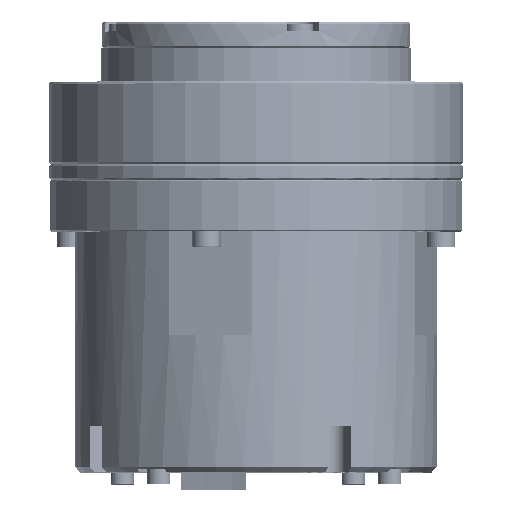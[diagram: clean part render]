
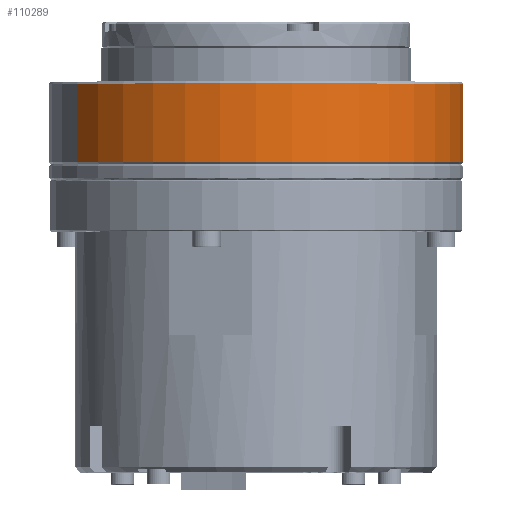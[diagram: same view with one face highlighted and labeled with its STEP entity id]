
A CAD part, top view. The second image highlights one B-rep face of the part: STEP entity #110289.
In plain terms, the highlighted cylindrical face has radius 40 mm (diameter 80 mm), a partial arc.
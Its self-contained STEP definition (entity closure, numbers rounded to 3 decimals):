
#1460 = ORIENTED_EDGE ( 'NONE', *, *, #81555, .T. ) ;
#2565 = VERTEX_POINT ( 'NONE', #100279 ) ;
#2908 = AXIS2_PLACEMENT_3D ( 'NONE', #51894, #23194, #13609 ) ;
#11632 = FACE_OUTER_BOUND ( 'NONE', #32510, .T. ) ;
#13609 = DIRECTION ( 'NONE',  ( -0.866, 0., 0.5 ) ) ;
#14722 = CARTESIAN_POINT ( 'NONE',  ( -34.641, 47.5, 20. ) ) ;
#19239 = CIRCLE ( 'NONE', #2908, 40. ) ;
#23194 = DIRECTION ( 'NONE',  ( 0., -1., 0. ) ) ;
#25133 = CARTESIAN_POINT ( 'NONE',  ( -34.641, 7.747, 20. ) ) ;
#30122 = CYLINDRICAL_SURFACE ( 'NONE', #72580, 40. ) ;
#32510 = EDGE_LOOP ( 'NONE', ( #99834, #1460, #90841, #106470, #43368 ) ) ;
#33204 = EDGE_CURVE ( 'NONE', #53707, #2565, #43039, .T. ) ;
#33594 = LINE ( 'NONE', #47428, #108339 ) ;
#36456 = VERTEX_POINT ( 'NONE', #79525 ) ;
#39184 = EDGE_CURVE ( 'NONE', #2565, #36456, #55442, .T. ) ;
#40988 = DIRECTION ( 'NONE',  ( -0.866, 0., 0.5 ) ) ;
#43039 = LINE ( 'NONE', #25133, #48808 ) ;
#43368 = ORIENTED_EDGE ( 'NONE', *, *, #66620, .T. ) ;
#47428 = CARTESIAN_POINT ( 'NONE',  ( 34.641, 7.747, -20. ) ) ;
#48808 = VECTOR ( 'NONE', #102955, 1000. ) ;
#51894 = CARTESIAN_POINT ( 'NONE',  ( 0., 47.5, 0. ) ) ;
#53707 = VERTEX_POINT ( 'NONE', #14722 ) ;
#55442 = CIRCLE ( 'NONE', #77868, 40. ) ;
#55465 = DIRECTION ( 'NONE',  ( -0.866, 0., 0.5 ) ) ;
#58782 = DIRECTION ( 'NONE',  ( -0.866, 0., 0.5 ) ) ;
#60710 = CARTESIAN_POINT ( 'NONE',  ( 0., 7.747, 0. ) ) ;
#66620 = EDGE_CURVE ( 'NONE', #36456, #113212, #109313, .T. ) ;
#70589 = AXIS2_PLACEMENT_3D ( 'NONE', #86269, #95207, #58782 ) ;
#70896 = CARTESIAN_POINT ( 'NONE',  ( 34.641, 32.3, -20. ) ) ;
#70903 = DIRECTION ( 'NONE',  ( 0., -1., 0. ) ) ;
#72580 = AXIS2_PLACEMENT_3D ( 'NONE', #60710, #70903, #40988 ) ;
#72719 = DIRECTION ( 'NONE',  ( 0., 1., 0. ) ) ;
#77868 = AXIS2_PLACEMENT_3D ( 'NONE', #122468, #72719, #55465 ) ;
#79525 = CARTESIAN_POINT ( 'NONE',  ( 20., 32.3, 34.641 ) ) ;
#81555 = EDGE_CURVE ( 'NONE', #93720, #53707, #19239, .T. ) ;
#86269 = CARTESIAN_POINT ( 'NONE',  ( 0., 32.3, 0. ) ) ;
#86360 = DIRECTION ( 'NONE',  ( 0., -1., 0. ) ) ;
#90841 = ORIENTED_EDGE ( 'NONE', *, *, #33204, .T. ) ;
#93720 = VERTEX_POINT ( 'NONE', #116817 ) ;
#95207 = DIRECTION ( 'NONE',  ( 0., 1., 0. ) ) ;
#99834 = ORIENTED_EDGE ( 'NONE', *, *, #125522, .F. ) ;
#100279 = CARTESIAN_POINT ( 'NONE',  ( -34.641, 32.3, 20. ) ) ;
#102955 = DIRECTION ( 'NONE',  ( 0., -1., 0. ) ) ;
#106470 = ORIENTED_EDGE ( 'NONE', *, *, #39184, .T. ) ;
#108339 = VECTOR ( 'NONE', #86360, 1000. ) ;
#109313 = CIRCLE ( 'NONE', #70589, 40. ) ;
#110289 = ADVANCED_FACE ( 'NONE', ( #11632 ), #30122, .T. ) ;
#113212 = VERTEX_POINT ( 'NONE', #70896 ) ;
#116817 = CARTESIAN_POINT ( 'NONE',  ( 34.641, 47.5, -20. ) ) ;
#122468 = CARTESIAN_POINT ( 'NONE',  ( 0., 32.3, 0. ) ) ;
#125522 = EDGE_CURVE ( 'NONE', #93720, #113212, #33594, .T. ) ;
